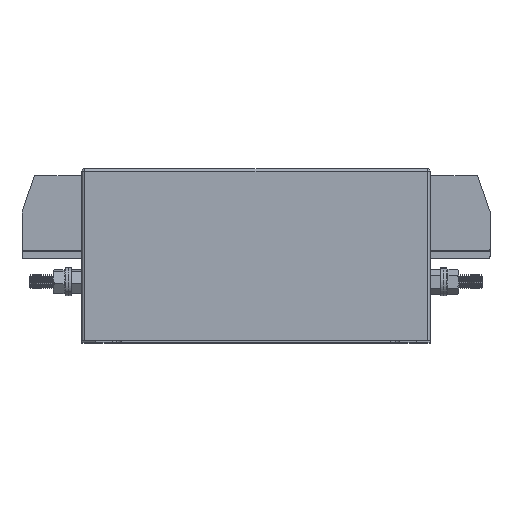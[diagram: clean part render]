
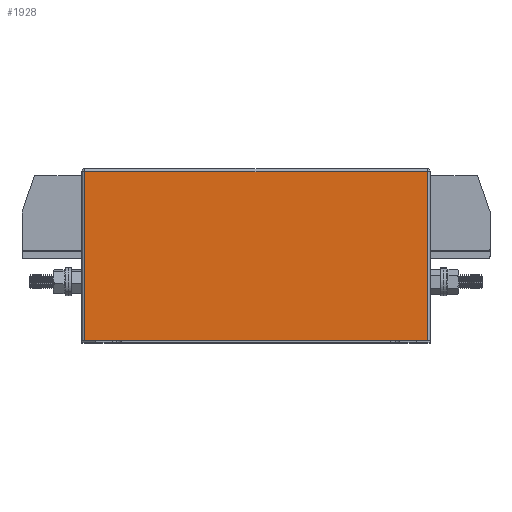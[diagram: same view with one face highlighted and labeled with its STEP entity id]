
A CAD part, top view. The second image highlights one B-rep face of the part: STEP entity #1928.
In plain terms, the highlighted planar face has unit normal (0, 0, 1).
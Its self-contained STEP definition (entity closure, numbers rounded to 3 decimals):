
#483 = EDGE_CURVE ( 'NONE', #4878, #7214, #1238, .T. ) ;
#512 = ORIENTED_EDGE ( 'NONE', *, *, #7673, .T. ) ;
#769 = AXIS2_PLACEMENT_3D ( 'NONE', #3020, #7660, #9064 ) ;
#1238 = LINE ( 'NONE', #6656, #2297 ) ;
#1334 = DIRECTION ( 'NONE',  ( 1., 0., 0. ) ) ;
#1422 = LINE ( 'NONE', #7348, #2620 ) ;
#1919 = FACE_OUTER_BOUND ( 'NONE', #9517, .T. ) ;
#1928 = ADVANCED_FACE ( 'NONE', ( #1919 ), #3706, .F. ) ;
#2145 = DIRECTION ( 'NONE',  ( -1., 0., 0. ) ) ;
#2297 = VECTOR ( 'NONE', #1334, 1000. ) ;
#2544 = CARTESIAN_POINT ( 'NONE',  ( 2., 125., -13.5 ) ) ;
#2620 = VECTOR ( 'NONE', #8991, 1000. ) ;
#3020 = CARTESIAN_POINT ( 'NONE',  ( 0., 125., -13.5 ) ) ;
#3178 = EDGE_CURVE ( 'NONE', #9441, #4593, #8900, .T. ) ;
#3244 = CARTESIAN_POINT ( 'NONE',  ( 248., 123., -13.5 ) ) ;
#3706 = PLANE ( 'NONE',  #769 ) ;
#4011 = CARTESIAN_POINT ( 'NONE',  ( 248., 1.5, -13.5 ) ) ;
#4466 = CARTESIAN_POINT ( 'NONE',  ( 2., 123., -13.5 ) ) ;
#4593 = VERTEX_POINT ( 'NONE', #4466 ) ;
#4878 = VERTEX_POINT ( 'NONE', #9452 ) ;
#5174 = CARTESIAN_POINT ( 'NONE',  ( 0., 123., -13.5 ) ) ;
#5668 = VECTOR ( 'NONE', #2145, 1000. ) ;
#6656 = CARTESIAN_POINT ( 'NONE',  ( 0., 1.5, -13.5 ) ) ;
#7214 = VERTEX_POINT ( 'NONE', #4011 ) ;
#7348 = CARTESIAN_POINT ( 'NONE',  ( 248., 125., -13.5 ) ) ;
#7637 = ORIENTED_EDGE ( 'NONE', *, *, #8964, .T. ) ;
#7660 = DIRECTION ( 'NONE',  ( 0., 0., -1. ) ) ;
#7673 = EDGE_CURVE ( 'NONE', #7214, #9441, #1422, .T. ) ;
#8536 = ORIENTED_EDGE ( 'NONE', *, *, #483, .T. ) ;
#8900 = LINE ( 'NONE', #5174, #5668 ) ;
#8964 = EDGE_CURVE ( 'NONE', #4593, #4878, #9683, .T. ) ;
#8991 = DIRECTION ( 'NONE',  ( 0., 1., 0. ) ) ;
#9064 = DIRECTION ( 'NONE',  ( -1., 0., 0. ) ) ;
#9094 = ORIENTED_EDGE ( 'NONE', *, *, #3178, .T. ) ;
#9380 = DIRECTION ( 'NONE',  ( 0., -1., 0. ) ) ;
#9441 = VERTEX_POINT ( 'NONE', #3244 ) ;
#9452 = CARTESIAN_POINT ( 'NONE',  ( 2., 1.5, -13.5 ) ) ;
#9517 = EDGE_LOOP ( 'NONE', ( #9094, #7637, #8536, #512 ) ) ;
#9683 = LINE ( 'NONE', #2544, #9815 ) ;
#9815 = VECTOR ( 'NONE', #9380, 1000. ) ;
